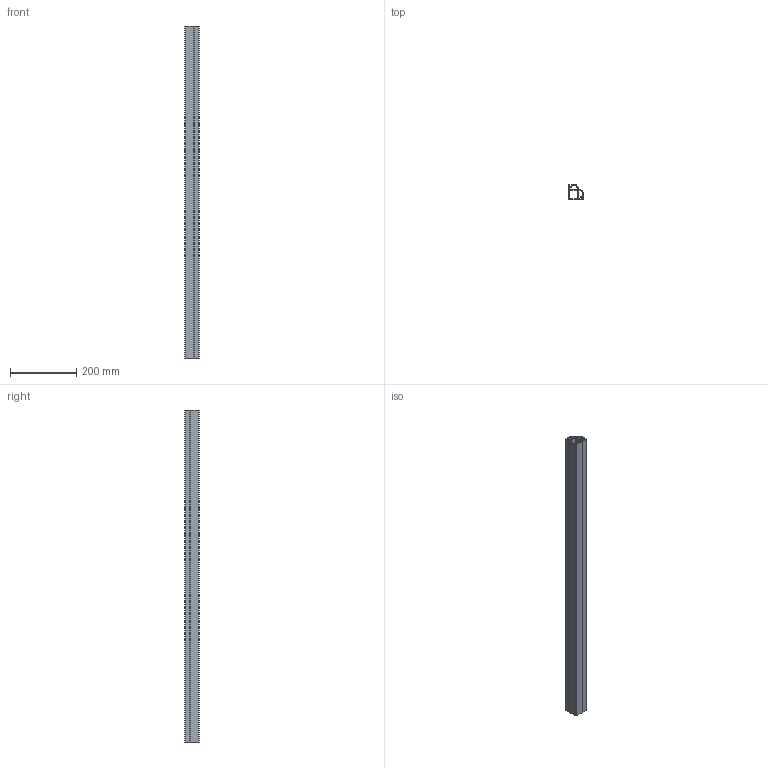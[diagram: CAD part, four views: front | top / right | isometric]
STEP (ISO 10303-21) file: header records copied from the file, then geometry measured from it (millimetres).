
FILE_DESCRIPTION (( 'STEP AP214' ), '1' );
FILE_NAME ('A40816.step', '2024-12-03T16:13:28', ( '' ), ( '' ), 'SwSTEP 2.0', 'SolidWorks 2023', '' );
FILE_SCHEMA (( 'AUTOMOTIVE_DESIGN' ));
Length unit declared in the file: millimetre
Products named in the file (1): A40816
Bounding box: 45 x 45 x 1000 mm (x, y, z)
Volume: 412375.5 mm3; surface area: 422006.9 mm2
Topology: 1 solids, 1 shells, 57 faces, 165 edges, 110 vertices
Faces by surface type: plane 30, cylinder 27
Entity records: 1920 total; most frequent: DIRECTION 335, CARTESIAN_POINT 333, ORIENTED_EDGE 330, EDGE_CURVE 165, AXIS2_PLACEMENT_3D 112, VECTOR 111, LINE 111, VERTEX_POINT 110
